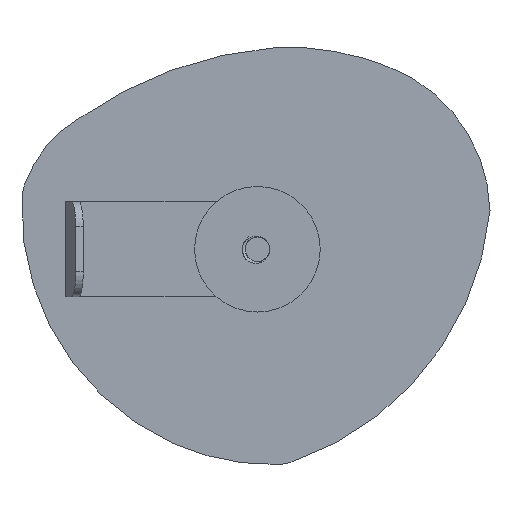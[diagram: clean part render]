
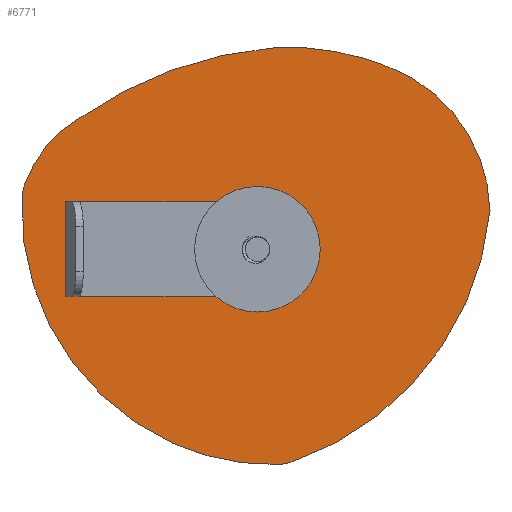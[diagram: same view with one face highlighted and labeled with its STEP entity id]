
A CAD part, front view. The second image highlights one B-rep face of the part: STEP entity #6771.
In plain terms, the highlighted planar face has unit normal (0, -1, 0) as drawn and (0, 0, 1) by its records, which use the part's own axes.
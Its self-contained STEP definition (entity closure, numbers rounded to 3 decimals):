
#205 = CARTESIAN_POINT ( 'NONE',  ( 98.141, 62.749, 0. ) ) ;
#550 = AXIS2_PLACEMENT_3D ( 'NONE', #4265, #686, #574 ) ;
#574 = DIRECTION ( 'NONE',  ( 1., 0., 0. ) ) ;
#575 = CARTESIAN_POINT ( 'NONE',  ( 96.019, 90.73, 0. ) ) ;
#686 = DIRECTION ( 'NONE',  ( 0., 0., 1. ) ) ;
#776 = CIRCLE ( 'NONE', #1720, 58.546 ) ;
#957 = CIRCLE ( 'NONE', #7524, 10. ) ;
#1086 = ORIENTED_EDGE ( 'NONE', *, *, #7146, .T. ) ;
#1269 = DIRECTION ( 'NONE',  ( 0., 0., 1. ) ) ;
#1296 = DIRECTION ( 'NONE',  ( 0., 0., 1. ) ) ;
#1457 = DIRECTION ( 'NONE',  ( 0., 0., 1. ) ) ;
#1519 = CARTESIAN_POINT ( 'NONE',  ( 57.123, 71.584, 0. ) ) ;
#1522 = AXIS2_PLACEMENT_3D ( 'NONE', #3859, #3097, #8380 ) ;
#1634 = CARTESIAN_POINT ( 'NONE',  ( 67.55, 70.251, 0. ) ) ;
#1667 = ORIENTED_EDGE ( 'NONE', *, *, #5420, .T. ) ;
#1720 = AXIS2_PLACEMENT_3D ( 'NONE', #8099, #11569, #9047 ) ;
#1883 = AXIS2_PLACEMENT_3D ( 'NONE', #11162, #7402, #4769 ) ;
#2002 = CARTESIAN_POINT ( 'NONE',  ( 16.772, 66.138, 0. ) ) ;
#2078 = CIRCLE ( 'NONE', #9397, 31.497 ) ;
#2204 = VERTEX_POINT ( 'NONE', #6795 ) ;
#2352 = VERTEX_POINT ( 'NONE', #205 ) ;
#2456 = PLANE ( 'NONE',  #9232 ) ;
#2516 = FACE_OUTER_BOUND ( 'NONE', #7477, .T. ) ;
#2551 = VERTEX_POINT ( 'NONE', #8928 ) ;
#2865 = CIRCLE ( 'NONE', #1883, 51.209 ) ;
#2972 = VERTEX_POINT ( 'NONE', #11101 ) ;
#3041 = CARTESIAN_POINT ( 'NONE',  ( 55.065, 120.47, 0. ) ) ;
#3097 = DIRECTION ( 'NONE',  ( 0., 0., 1. ) ) ;
#3138 = VERTEX_POINT ( 'NONE', #5039 ) ;
#3305 = CARTESIAN_POINT ( 'NONE',  ( 26.261, 69.295, 0. ) ) ;
#3310 = VERTEX_POINT ( 'NONE', #575 ) ;
#3859 = CARTESIAN_POINT ( 'NONE',  ( 61.724, 81.093, 0. ) ) ;
#3933 = CIRCLE ( 'NONE', #5248, 52.44 ) ;
#3976 = EDGE_CURVE ( 'NONE', #7365, #3138, #2865, .T. ) ;
#4002 = VERTEX_POINT ( 'NONE', #2002 ) ;
#4120 = ORIENTED_EDGE ( 'NONE', *, *, #11099, .T. ) ;
#4265 = CARTESIAN_POINT ( 'NONE',  ( 46.696, 72.917, 0. ) ) ;
#4344 = CIRCLE ( 'NONE', #4531, 10. ) ;
#4531 = AXIS2_PLACEMENT_3D ( 'NONE', #3305, #9476, #10303 ) ;
#4769 = DIRECTION ( 'NONE',  ( -1., 0., 0. ) ) ;
#4887 = DIRECTION ( 'NONE',  ( 1., 0., 0. ) ) ;
#4991 = EDGE_CURVE ( 'NONE', #5163, #2972, #6373, .T. ) ;
#5039 = CARTESIAN_POINT ( 'NONE',  ( 14.724, 87.03, 0. ) ) ;
#5163 = VERTEX_POINT ( 'NONE', #10444 ) ;
#5248 = AXIS2_PLACEMENT_3D ( 'NONE', #11438, #6969, #10556 ) ;
#5337 = EDGE_CURVE ( 'NONE', #3310, #5163, #10121, .T. ) ;
#5344 = EDGE_CURVE ( 'NONE', #2551, #3310, #6553, .T. ) ;
#5371 = DIRECTION ( 'NONE',  ( -1., 0., 0. ) ) ;
#5420 = EDGE_CURVE ( 'NONE', #2352, #2551, #3933, .T. ) ;
#5967 = CARTESIAN_POINT ( 'NONE',  ( 52.526, 130.143, 0. ) ) ;
#6024 = ORIENTED_EDGE ( 'NONE', *, *, #5337, .T. ) ;
#6373 = CIRCLE ( 'NONE', #11426, 24.891 ) ;
#6553 = CIRCLE ( 'NONE', #550, 52.44 ) ;
#6676 = DIRECTION ( 'NONE',  ( 1., 0., 0. ) ) ;
#6771 = ADVANCED_FACE ( 'NONE', ( #2516 ), #2456, .T. ) ;
#6795 = CARTESIAN_POINT ( 'NONE',  ( 18.151, 63.444, 0. ) ) ;
#6969 = DIRECTION ( 'NONE',  ( 0., 0., 1. ) ) ;
#7118 = EDGE_CURVE ( 'NONE', #3138, #4002, #7891, .T. ) ;
#7146 = EDGE_CURVE ( 'NONE', #2972, #7365, #957, .T. ) ;
#7244 = CARTESIAN_POINT ( 'NONE',  ( 54.297, 105.599, 0. ) ) ;
#7365 = VERTEX_POINT ( 'NONE', #5967 ) ;
#7375 = ORIENTED_EDGE ( 'NONE', *, *, #8071, .T. ) ;
#7402 = DIRECTION ( 'NONE',  ( 0., 0., 1. ) ) ;
#7477 = EDGE_LOOP ( 'NONE', ( #8768, #1086, #8942, #8484, #7375, #4120, #11410, #1667, #9020, #6024 ) ) ;
#7524 = AXIS2_PLACEMENT_3D ( 'NONE', #3041, #1269, #6676 ) ;
#7680 = DIRECTION ( 'NONE',  ( 1., 0., 0. ) ) ;
#7799 = CARTESIAN_POINT ( 'NONE',  ( 22.528, 61.625, 0. ) ) ;
#7891 = CIRCLE ( 'NONE', #1522, 47.374 ) ;
#8071 = EDGE_CURVE ( 'NONE', #4002, #2204, #4344, .T. ) ;
#8099 = CARTESIAN_POINT ( 'NONE',  ( 65.632, 97.696, 0. ) ) ;
#8380 = DIRECTION ( 'NONE',  ( -1., 0., 0. ) ) ;
#8484 = ORIENTED_EDGE ( 'NONE', *, *, #7118, .T. ) ;
#8619 = DIRECTION ( 'NONE',  ( 1., 0., 0. ) ) ;
#8636 = EDGE_CURVE ( 'NONE', #10355, #2352, #2078, .T. ) ;
#8768 = ORIENTED_EDGE ( 'NONE', *, *, #4991, .T. ) ;
#8928 = CARTESIAN_POINT ( 'NONE',  ( 99.137, 72.917, 0. ) ) ;
#8942 = ORIENTED_EDGE ( 'NONE', *, *, #3976, .T. ) ;
#9020 = ORIENTED_EDGE ( 'NONE', *, *, #5344, .T. ) ;
#9047 = DIRECTION ( 'NONE',  ( -1., 0., 0. ) ) ;
#9071 = DIRECTION ( 'NONE',  ( 0., 0., 1. ) ) ;
#9232 = AXIS2_PLACEMENT_3D ( 'NONE', #1519, #11268, #7680 ) ;
#9397 = AXIS2_PLACEMENT_3D ( 'NONE', #1634, #1296, #4887 ) ;
#9476 = DIRECTION ( 'NONE',  ( 0., 0., 1. ) ) ;
#10121 = CIRCLE ( 'NONE', #11620, 79.044 ) ;
#10157 = CARTESIAN_POINT ( 'NONE',  ( 77.493, 40.364, 0. ) ) ;
#10303 = DIRECTION ( 'NONE',  ( 1., 0., 0. ) ) ;
#10355 = VERTEX_POINT ( 'NONE', #10157 ) ;
#10444 = CARTESIAN_POINT ( 'NONE',  ( 70.932, 124.115, 0. ) ) ;
#10556 = DIRECTION ( 'NONE',  ( 1., 0., 0. ) ) ;
#11099 = EDGE_CURVE ( 'NONE', #2204, #10355, #776, .T. ) ;
#11101 = CARTESIAN_POINT ( 'NONE',  ( 55.581, 130.457, 0. ) ) ;
#11162 = CARTESIAN_POINT ( 'NONE',  ( 65.529, 80.612, 0. ) ) ;
#11268 = DIRECTION ( 'NONE',  ( 0., 0., 1. ) ) ;
#11410 = ORIENTED_EDGE ( 'NONE', *, *, #8636, .T. ) ;
#11426 = AXIS2_PLACEMENT_3D ( 'NONE', #7244, #9071, #5371 ) ;
#11438 = CARTESIAN_POINT ( 'NONE',  ( 46.696, 72.917, 0. ) ) ;
#11569 = DIRECTION ( 'NONE',  ( 0., 0., 1. ) ) ;
#11620 = AXIS2_PLACEMENT_3D ( 'NONE', #7799, #1457, #8619 ) ;
